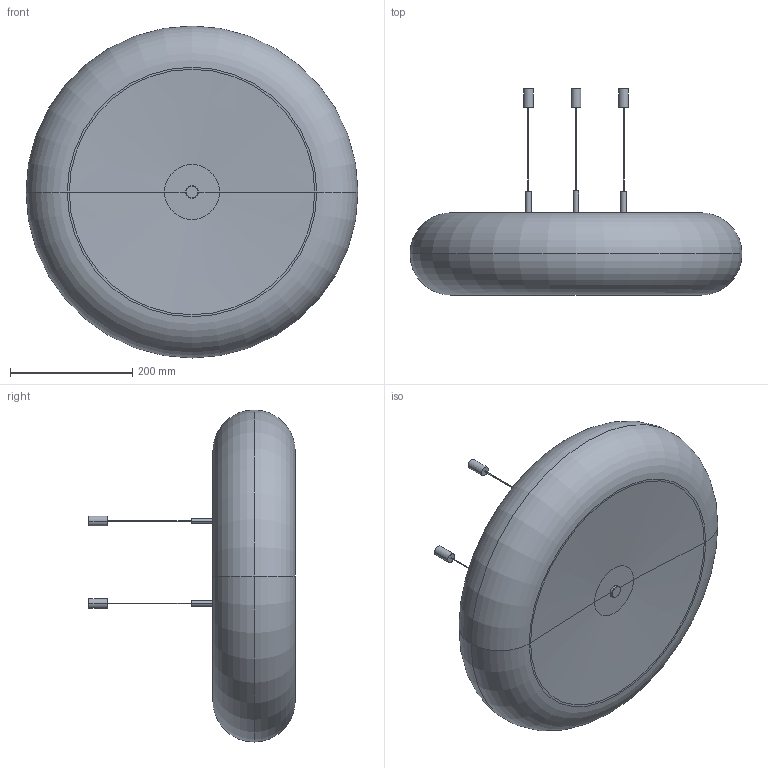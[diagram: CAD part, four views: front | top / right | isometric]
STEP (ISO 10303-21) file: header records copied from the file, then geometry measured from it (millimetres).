
FILE_DESCRIPTION(('Creo Elements/Direct Modeling STEP Export'),'2;1');
FILE_NAME('ARNO LED PENDEL 540.stp','2016-03-15T17:19:12',(''),(''),'Creo Elements/Direct Modeling STEP processor for AP214 (Solid Model)','Creo Elements/Direct Modeling 18.1A 09-Jun-2012 (C) Parametric Technology GmbH','');
FILE_SCHEMA(('AUTOMOTIVE_DESIGN { 1 0 10303 214 1 1 1 1 }'));
Length unit declared in the file: millimetre
Products named in the file (2): T1; ARNO_LED_540.1
Assembly tree (1 placements, depth 2):
  ARNO_LED_540.1
    T1
Bounding box: 544 x 338.29 x 544 mm (x, y, z)
Volume: 27721321.7 mm3; surface area: 606881.8 mm2
Topology: 1 solids, 1 shells, 51 faces, 100 edges, 60 vertices
Faces by surface type: cylinder 20, cone 16, plane 11, torus 4
Entity records: 1213 total; most frequent: DIRECTION 210, ORIENTED_EDGE 200, CARTESIAN_POINT 183, EDGE_CURVE 100, AXIS2_PLACEMENT_3D 87, VERTEX_POINT 60, EDGE_LOOP 60, FACE_OUTER_BOUND 51
